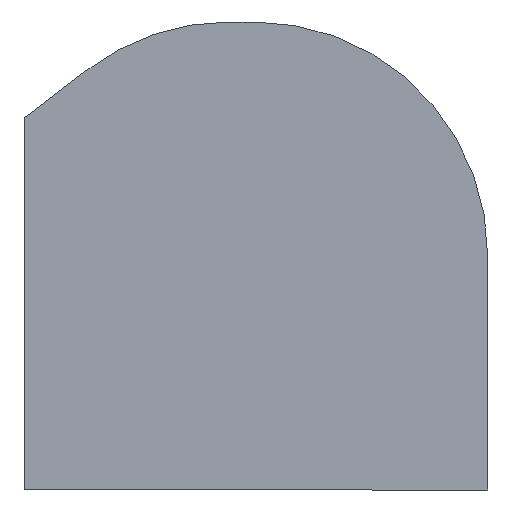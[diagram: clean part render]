
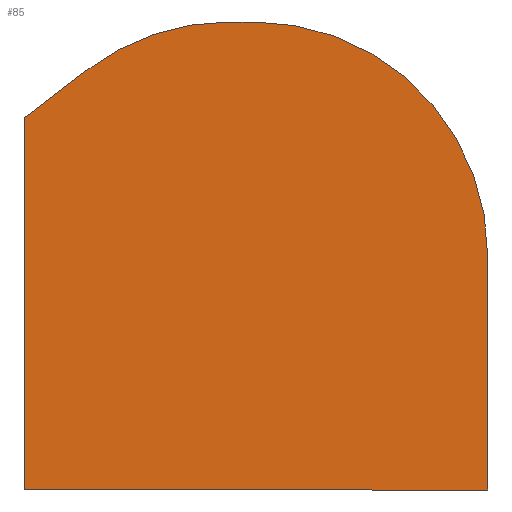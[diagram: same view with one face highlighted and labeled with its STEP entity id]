
A CAD part, top view. The second image highlights one B-rep face of the part: STEP entity #85.
In plain terms, the highlighted planar face has unit normal (0, 0, 1).
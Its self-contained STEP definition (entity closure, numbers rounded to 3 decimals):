
#85=ADVANCED_FACE('',(#169),#171,.T.);
#169=FACE_BOUND('',#170,.T.);
#170=EDGE_LOOP('',(#234,#235,#236,#237,#238,#239,#240,#241));
#171=PLANE('',#172);
#172=AXIS2_PLACEMENT_3D('',#173,#174,#175);
#173=CARTESIAN_POINT('',(0.,0.,0.8));
#174=DIRECTION('',(0.,0.,1.));
#175=DIRECTION('',(1.,0.,0.));
#234=ORIENTED_EDGE('',*,*,#280,.T.);
#235=ORIENTED_EDGE('',*,*,#273,.T.);
#236=ORIENTED_EDGE('',*,*,#281,.T.);
#237=ORIENTED_EDGE('',*,*,#282,.T.);
#238=ORIENTED_EDGE('',*,*,#283,.T.);
#239=ORIENTED_EDGE('',*,*,#284,.T.);
#240=ORIENTED_EDGE('',*,*,#285,.T.);
#241=ORIENTED_EDGE('',*,*,#267,.T.);
#267=EDGE_CURVE('',#293,#291,#294,.T.);
#273=EDGE_CURVE('',#298,#303,#305,.F.);
#280=EDGE_CURVE('',#291,#298,#316,.F.);
#281=EDGE_CURVE('',#303,#317,#318,.T.);
#282=EDGE_CURVE('',#317,#319,#320,.T.);
#283=EDGE_CURVE('',#319,#321,#322,.T.);
#284=EDGE_CURVE('',#321,#323,#324,.T.);
#285=EDGE_CURVE('',#323,#293,#325,.T.);
#291=VERTEX_POINT('',#331);
#293=VERTEX_POINT('',#336);
#294=CIRCLE('',#337,40.);
#298=VERTEX_POINT('',#349);
#303=VERTEX_POINT('',#358);
#305=LINE('',#362,#363);
#316=LINE('',#389,#390);
#317=VERTEX_POINT('',#392);
#318=LINE('',#393,#394);
#319=VERTEX_POINT('',#396);
#320=CIRCLE('',#397,80.);
#321=VERTEX_POINT('',#401);
#322=LINE('',#402,#403);
#323=VERTEX_POINT('',#405);
#324=CIRCLE('',#406,80.);
#325=LINE('',#410,#411);
#331=CARTESIAN_POINT('',(-158.837,127.226,0.8));
#336=CARTESIAN_POINT('',(-155.607,129.477,0.8));
#337=AXIS2_PLACEMENT_3D('',#338,#339,#340);
#338=CARTESIAN_POINT('',(-180.062,161.13,0.8));
#339=DIRECTION('',(0.,0.,-1.));
#340=DIRECTION('',(0.611,-0.791,0.));
#349=CARTESIAN_POINT('',(-158.837,-0.442,0.8));
#358=CARTESIAN_POINT('',(0.,-0.442,0.8));
#362=CARTESIAN_POINT('',(0.,-0.442,0.8));
#363=VECTOR('',#364,1.);
#364=DIRECTION('',(-1.,0.,0.));
#389=CARTESIAN_POINT('',(-158.837,-0.442,0.8));
#390=VECTOR('',#391,1.);
#391=DIRECTION('',(0.,1.,0.));
#392=CARTESIAN_POINT('',(0.,80.,0.8));
#393=CARTESIAN_POINT('',(0.,-0.442,0.8));
#394=VECTOR('',#395,1.);
#395=DIRECTION('',(0.,1.,0.));
#396=CARTESIAN_POINT('',(-80.,160.,0.8));
#397=AXIS2_PLACEMENT_3D('',#398,#399,#400);
#398=CARTESIAN_POINT('',(-80.,80.,0.8));
#399=DIRECTION('',(0.,0.,1.));
#400=DIRECTION('',(1.,0.,0.));
#401=CARTESIAN_POINT('',(-88.795,160.,0.8));
#402=CARTESIAN_POINT('',(-80.,160.,0.8));
#403=VECTOR('',#404,1.);
#404=DIRECTION('',(-1.,0.,0.));
#405=CARTESIAN_POINT('',(-137.705,143.307,0.8));
#406=AXIS2_PLACEMENT_3D('',#407,#408,#409);
#407=CARTESIAN_POINT('',(-88.795,80.,0.8));
#408=DIRECTION('',(0.,0.,1.));
#409=DIRECTION('',(0.,1.,0.));
#410=CARTESIAN_POINT('',(-137.705,143.307,0.8));
#411=VECTOR('',#412,1.);
#412=DIRECTION('',(-0.791,-0.611,0.));
